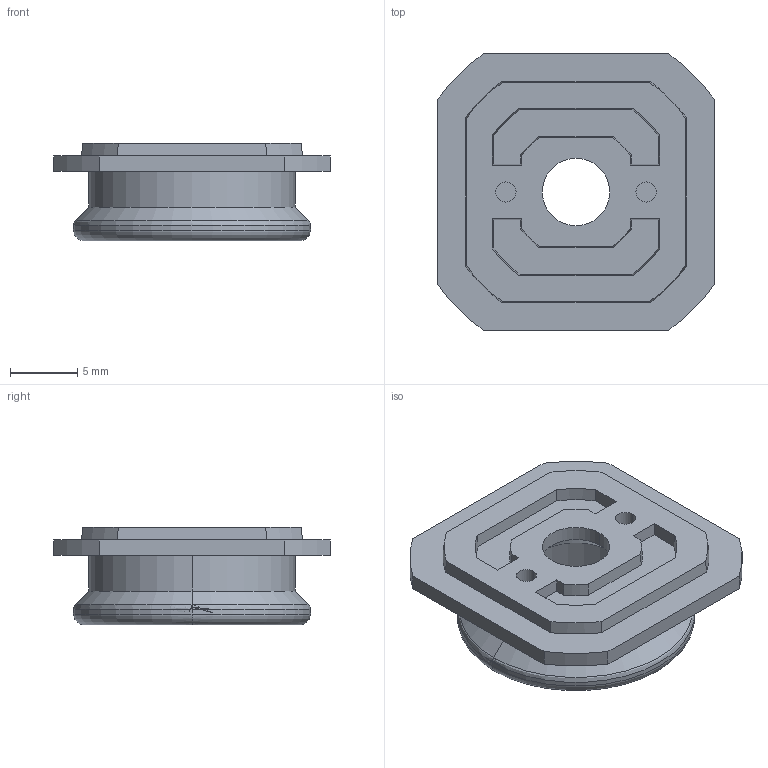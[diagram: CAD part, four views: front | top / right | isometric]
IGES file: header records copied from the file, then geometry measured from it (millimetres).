
Start section: 3D InterOp IGES (v. 2022 1.0.1), Spatial Corp. Copyright (c) 1999-2020.
Global section: file name: E545-M_11.05.818-5 Click Button Panel Connector Grey PC Male _20.5x20.5mm.igs; native system: Spatial Corp.; preprocessor: 3D InterOp GENERIC/IGES 3.0; author: Noname; organization: Noname; date: 20251208.165939; units: millimetre
Bounding box: 20.5 x 20.5 x 7.25 mm (x, y, z)
Surface area: 1807 mm2 (no closed solid volume)
Topology: 0 solids, 0 shells, 69 faces, 348 edges, 346 vertices
Faces by surface type: revolution 38, extrusion 31
